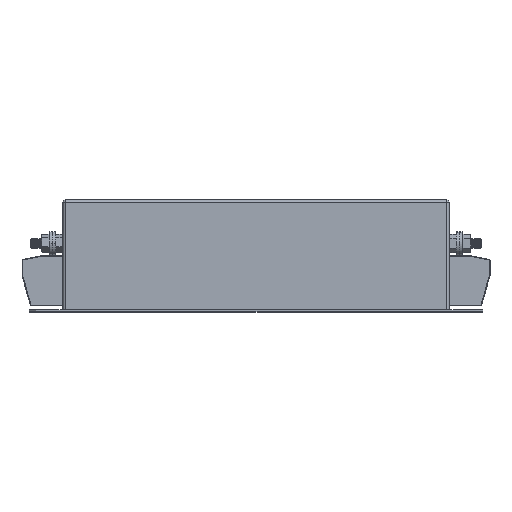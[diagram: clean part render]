
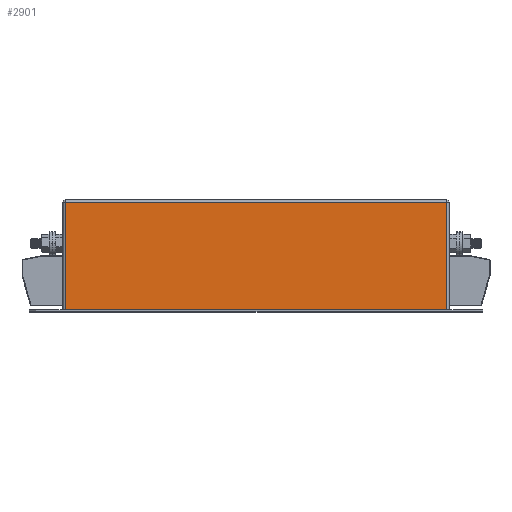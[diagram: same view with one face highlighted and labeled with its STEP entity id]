
A CAD part, top view. The second image highlights one B-rep face of the part: STEP entity #2901.
In plain terms, the highlighted planar face has unit normal (0, 0, 1).
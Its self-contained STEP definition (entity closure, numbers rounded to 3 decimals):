
#893 = EDGE_CURVE ( 'NONE', #894, #895, #5746, .T. ) ;
#894 = VERTEX_POINT ( 'NONE', #5742 ) ;
#895 = VERTEX_POINT ( 'NONE', #5741 ) ;
#1050 = DIRECTION ( 'NONE',  ( 0., 1., 0. ) ) ;
#1051 = VECTOR ( 'NONE', #1050, 1000. ) ;
#1052 = CARTESIAN_POINT ( 'NONE',  ( 336., 90., 178.5 ) ) ;
#1053 = LINE ( 'NONE', #1052, #1051 ) ;
#1054 = DIRECTION ( 'NONE',  ( 0., -1., 0. ) ) ;
#1055 = VECTOR ( 'NONE', #1054, 1000. ) ;
#1056 = CARTESIAN_POINT ( 'NONE',  ( 29., 90., 178.5 ) ) ;
#1057 = LINE ( 'NONE', #1056, #1055 ) ;
#1058 = CARTESIAN_POINT ( 'NONE',  ( 29., 88., 178.5 ) ) ;
#1059 = CARTESIAN_POINT ( 'NONE',  ( 336., 88., 178.5 ) ) ;
#1070 = DIRECTION ( 'NONE',  ( -1., 0., 0. ) ) ;
#1071 = DIRECTION ( 'NONE',  ( 0., 0., -1. ) ) ;
#1072 = CARTESIAN_POINT ( 'NONE',  ( 27., 90., 178.5 ) ) ;
#1073 = AXIS2_PLACEMENT_3D ( 'NONE', #1072, #1071, #1070 ) ;
#1074 = PLANE ( 'NONE',  #1073 ) ;
#1075 = FACE_OUTER_BOUND ( 'NONE', #2902, .T. ) ;
#2875 = EDGE_CURVE ( 'NONE', #2876, #2877, #6502, .T. ) ;
#2876 = VERTEX_POINT ( 'NONE', #1059 ) ;
#2877 = VERTEX_POINT ( 'NONE', #1058 ) ;
#2878 = ORIENTED_EDGE ( 'NONE', *, *, #2879, .T. ) ;
#2879 = EDGE_CURVE ( 'NONE', #2877, #894, #1057, .T. ) ;
#2880 = ORIENTED_EDGE ( 'NONE', *, *, #893, .T. ) ;
#2881 = ORIENTED_EDGE ( 'NONE', *, *, #2882, .T. ) ;
#2882 = EDGE_CURVE ( 'NONE', #895, #2876, #1053, .T. ) ;
#2901 = ADVANCED_FACE ( 'NONE', ( #1075 ), #1074, .F. ) ;
#2902 = EDGE_LOOP ( 'NONE', ( #2903, #2878, #2880, #2881 ) ) ;
#2903 = ORIENTED_EDGE ( 'NONE', *, *, #2875, .T. ) ;
#5741 = CARTESIAN_POINT ( 'NONE',  ( 336., 1.5, 178.5 ) ) ;
#5742 = CARTESIAN_POINT ( 'NONE',  ( 29., 1.5, 178.5 ) ) ;
#5743 = DIRECTION ( 'NONE',  ( 1., 0., 0. ) ) ;
#5744 = VECTOR ( 'NONE', #5743, 1000. ) ;
#5745 = CARTESIAN_POINT ( 'NONE',  ( 27., 1.5, 178.5 ) ) ;
#5746 = LINE ( 'NONE', #5745, #5744 ) ;
#5997 = VECTOR ( 'NONE', #6253, 1000. ) ;
#6253 = DIRECTION ( 'NONE',  ( -1., 0., 0. ) ) ;
#6501 = CARTESIAN_POINT ( 'NONE',  ( 27., 88., 178.5 ) ) ;
#6502 = LINE ( 'NONE', #6501, #5997 ) ;
